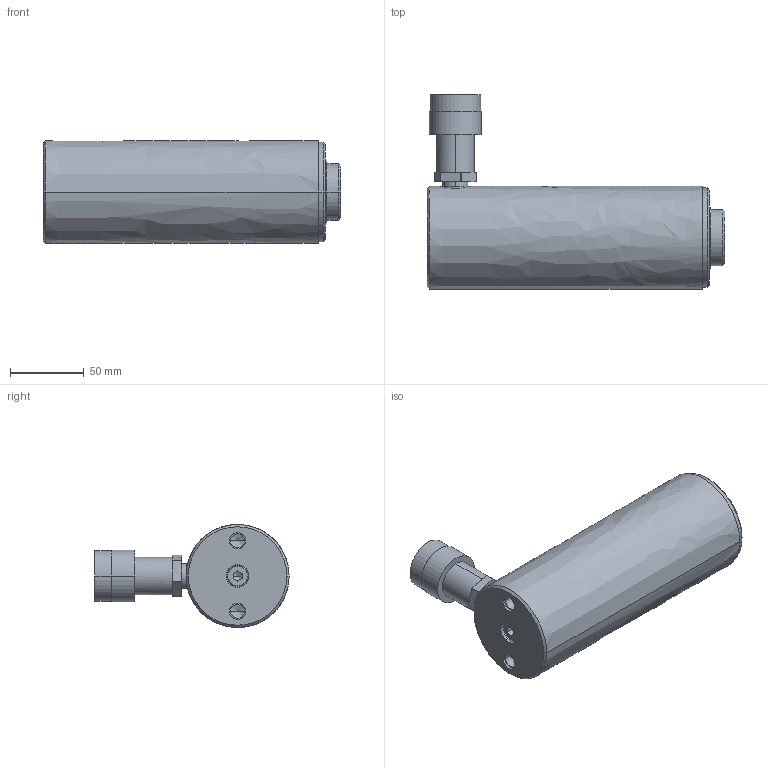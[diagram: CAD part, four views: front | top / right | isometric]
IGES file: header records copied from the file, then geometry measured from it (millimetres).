
Start section:  PTC IGES file: RC-154.igs
Global section: file name: RC-154.igs; native system: Creo Parametric by PTC Inc.; preprocessor: 2017020; author: mike.ward; organization: Unknown; date: 20190325.093134; units: inch
Bounding box: 201.42 x 131.44 x 69.72 mm (x, y, z)
Volume: 593841.1 mm3; surface area: 127263.1 mm2
Topology: 2 solids, 2 shells, 271 faces, 584 edges, 346 vertices
Faces by surface type: revolution 197, bspline 74
